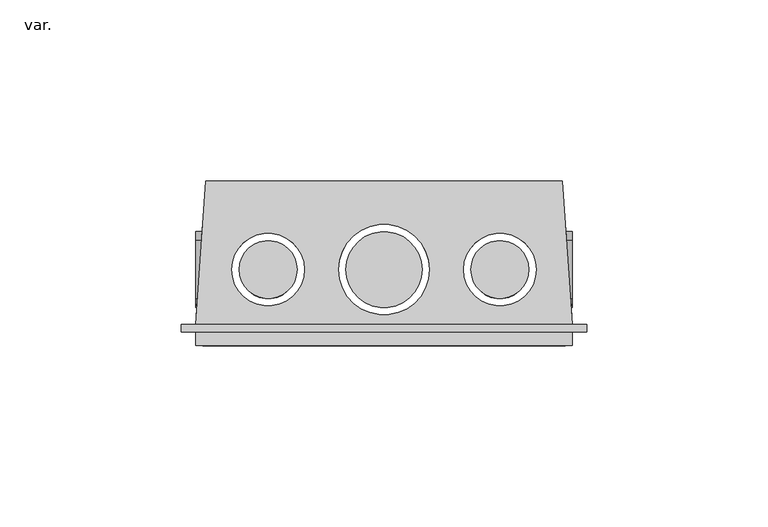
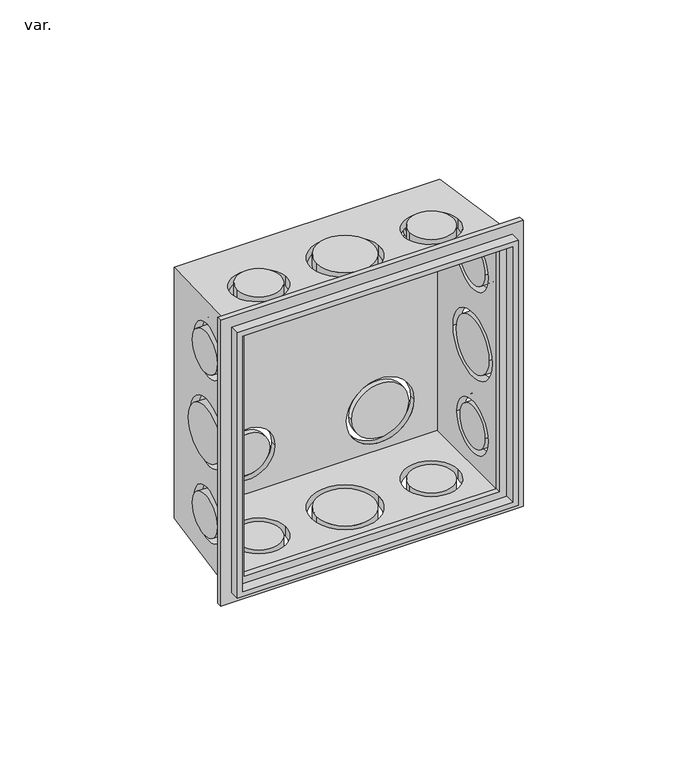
"""IFC4 building model written with IfcOpenShell, lengths in millimetres: pipe fitting geometry, AmancoWavin_ConexõesdoConduite_LinhaEletricaSoldRoscCaixa4x4 : var.."""

import ifcopenshell
import ifcopenshell.guid

model = None  # the IFC model being written
_history = None  # IfcOwnerHistory: only IFC2X3 demands one
_inside = {}  # id of a spatial element -> (the spatial element, [elements in it])
_under = {}  # id of a project, library or spatial element -> (it, [spatial elements below it])
_declared = {}  # id of a project -> (the project, [libraries it declares])
_typed = {}  # id of a type object -> (the type object, [elements of that type])
_made_of = {}  # id of a material, layer set ... -> (it, [elements and type objects made of it])


def new_model(schema):
    """Start an empty IFC model of exactly this schema.

    Asked for "IFC4X3", IfcOpenShell would pick the latest addendum, in which some entities
    have other attributes; the version numbers below select the first issue.
    IFC2X3 requires an IfcOwnerHistory on every rooted entity: one is made here for all.
    """
    global model, _history
    if schema == "IFC4X3":
        model = ifcopenshell.file(schema_version=(4, 3, 0, 0))
    else:
        model = ifcopenshell.file(schema=schema)
    _inside.clear()
    _under.clear()
    _declared.clear()
    _typed.clear()
    _made_of.clear()
    _history = None
    if model.schema == "IFC2X3":
        org = make("IfcOrganization", Name="unknown")
        user = make(
            "IfcPersonAndOrganization",
            ThePerson=make("IfcPerson", FamilyName="unknown"),
            TheOrganization=org,
        )
        app = make(
            "IfcApplication",
            ApplicationDeveloper=org,
            Version="unknown",
            ApplicationFullName="unknown",
            ApplicationIdentifier="unknown",
        )
        _history = make(
            "IfcOwnerHistory",
            OwningUser=user,
            OwningApplication=app,
            ChangeAction="ADDED",
            CreationDate=0,
        )
    return model


def make(cls, **values):
    """One entity of the class cls with the attributes given. An attribute that is None is left unset."""
    return model.create_entity(
        cls, **{name: value for name, value in values.items() if value is not None}
    )


def rooted(cls, **values):
    """An entity with a GlobalId (a new one), such as an element, a storey or a relation."""
    return make(cls, GlobalId=ifcopenshell.guid.new(), OwnerHistory=_history, **values)


def si_unit(unit_type, name, prefix=None):
    """IfcSIUnit, for example si_unit("LENGTHUNIT", "METRE", prefix="MILLI")."""
    return make("IfcSIUnit", UnitType=unit_type, Prefix=prefix, Name=name)


def assignment(units):
    """IfcUnitAssignment: the units of a project."""
    return None if units is None else make("IfcUnitAssignment", Units=units)


def point(xyz):
    """IfcCartesianPoint."""
    return None if xyz is None else make("IfcCartesianPoint", Coordinates=xyz)


def direction(xyz):
    """IfcDirection."""
    return None if xyz is None else make("IfcDirection", DirectionRatios=xyz)


def frame(location, z_axis=None, x_axis=None):
    """IfcAxis2Placement3D, a coordinate frame: its origin and axes. An axis left out is left unset."""
    return make(
        "IfcAxis2Placement3D",
        Location=point(location),
        Axis=direction(z_axis),
        RefDirection=direction(x_axis),
    )


def frame_2d(location, x_axis=None):
    """IfcAxis2Placement2D, a coordinate frame in the plane: its origin and x axis."""
    return make(
        "IfcAxis2Placement2D", Location=point(location), RefDirection=direction(x_axis)
    )


def origin():
    """The frame at (0, 0, 0) with its axes left unset."""
    return frame((0.0, 0.0, 0.0))


def place(relative_to, where):
    """IfcLocalPlacement: puts the frame where relative to a parent placement (None: the world)."""
    return make(
        "IfcLocalPlacement", PlacementRelTo=relative_to, RelativePlacement=where
    )


def context(
    kind, dimensions, precision=None, world=None, true_north=None, identifier=None
):
    """IfcGeometricRepresentationContext, for example the 3D "Model" context."""
    return make(
        "IfcGeometricRepresentationContext",
        ContextIdentifier=identifier,
        ContextType=kind,
        CoordinateSpaceDimension=dimensions,
        Precision=precision,
        WorldCoordinateSystem=world,
        TrueNorth=true_north,
    )


def project(units=None, contexts=None):
    """IfcProject with its units and contexts."""
    return rooted(
        "IfcProject",
        Name="project",
        RepresentationContexts=contexts,
        UnitsInContext=assignment(units),
    )


def spatial(cls, under=None, at=None, **own):
    """A site, building, storey or space (cls), placed at a placement, below another one or the project."""
    s = rooted(cls, ObjectPlacement=at, **own)
    if under is not None:
        _under.setdefault(under.id(), (under, []))[1].append(s)
    return s


def polyline(points):
    """IfcPolyline through the points."""
    return make("IfcPolyline", Points=[point(p) for p in points])


def circle_curve(where, radius):
    """IfcCircle in the frame where."""
    return make("IfcCircle", Position=where, Radius=radius)


def ellipse_curve(where, semi_axis1, semi_axis2):
    """IfcEllipse in the frame where."""
    return make(
        "IfcEllipse", Position=where, SemiAxis1=semi_axis1, SemiAxis2=semi_axis2
    )


def trimmed(basis, trim1, trim2, sense, master):
    """IfcTrimmedCurve: the piece of a basis curve between two trims."""
    return make(
        "IfcTrimmedCurve",
        BasisCurve=basis,
        Trim1=trim1,
        Trim2=trim2,
        SenseAgreement=sense,
        MasterRepresentation=master,
    )


def segment(curve, same_sense, transition):
    """IfcCompositeCurveSegment."""
    return make(
        "IfcCompositeCurveSegment",
        Transition=transition,
        SameSense=same_sense,
        ParentCurve=curve,
    )


def composite_curve(segments, self_intersect=None):
    """IfcCompositeCurve: segments joined end to end."""
    return make("IfcCompositeCurve", Segments=segments, SelfIntersect=self_intersect)


def outline(outer, holes=None, kind="AREA"):
    """IfcArbitraryClosedProfileDef: a profile drawn as a closed curve; with holes, ...WithVoids."""
    if holes is None:
        return make("IfcArbitraryClosedProfileDef", ProfileType=kind, OuterCurve=outer)
    return make(
        "IfcArbitraryProfileDefWithVoids",
        ProfileType=kind,
        OuterCurve=outer,
        InnerCurves=holes,
    )


def extrude(swept, where, along, depth):
    """IfcExtrudedAreaSolid: the profile swept, set in the frame where, extruded along a direction by depth."""
    return make(
        "IfcExtrudedAreaSolid",
        SweptArea=swept,
        Position=where,
        ExtrudedDirection=direction(along),
        Depth=depth,
    )


def shape(context_of_items, identifier, shape_type, items):
    """IfcShapeRepresentation: the items that make up one representation, for example the "Body"."""
    return make(
        "IfcShapeRepresentation",
        ContextOfItems=context_of_items,
        RepresentationIdentifier=identifier,
        RepresentationType=shape_type,
        Items=items,
    )


def source(mapping_origin, context_of_items, identifier, shape_type, items):
    """IfcRepresentationMap: a shape defined once, which mapped items show again and again."""
    return make(
        "IfcRepresentationMap",
        MappingOrigin=mapping_origin,
        MappedRepresentation=shape(context_of_items, identifier, shape_type, items),
    )


def transform(
    local_origin,
    x_axis=None,
    y_axis=None,
    z_axis=None,
    scale=None,
    scale2=None,
    scale3=None,
    uniform=True,
):
    """IfcCartesianTransformationOperator3D, or its non-uniform kind. x_axis, y_axis, z_axis: its Axis1, 2, 3."""
    if uniform:
        return make(
            "IfcCartesianTransformationOperator3D",
            Axis1=direction(x_axis),
            Axis2=direction(y_axis),
            LocalOrigin=point(local_origin),
            Scale=scale,
            Axis3=direction(z_axis),
        )
    return make(
        "IfcCartesianTransformationOperator3DnonUniform",
        Axis1=direction(x_axis),
        Axis2=direction(y_axis),
        LocalOrigin=point(local_origin),
        Scale=scale,
        Axis3=direction(z_axis),
        Scale2=scale2,
        Scale3=scale3,
    )


def mapped(mapping_source, mapping_target):
    """IfcMappedItem: shows the shape of a source again, moved by a transform."""
    return make(
        "IfcMappedItem", MappingSource=mapping_source, MappingTarget=mapping_target
    )


def made_of(thing, what):
    """Note that an element or type object is made of a material, layer set ...; save() writes the relation."""
    if what is not None:
        _made_of.setdefault(what.id(), (what, []))[1].append(thing)
    return thing


def element(
    cls,
    number,
    at=None,
    inside=None,
    cuts=None,
    type_object=None,
    material=None,
    context=None,
    identifier="Body",
    shape_type=None,
    held_by="IfcProductDefinitionShape",
    body=None,
    shapes=None,
    **own,
):
    """One element of the class cls, such as IfcWall. Its Tag is "e" and its number.

    at: its placement. inside: the storey or other place that contains it. cuts: it is an
    opening in that element (IfcRelVoidsElement). A single representation is given by context,
    identifier, shape_type and body (its items); several are given by shapes. held_by: the class
    of the entity that holds the representations. save() writes the other relations.
    """
    e = rooted(cls, Tag="e%d" % number, ObjectPlacement=at, **own)
    if body is not None:
        shapes = [shape(context, identifier, shape_type, body)]
    if shapes is not None:
        e.Representation = make(held_by, Representations=shapes)
    if inside is not None:
        _inside.setdefault(inside.id(), (inside, []))[1].append(e)
    if cuts is not None:
        rooted(
            "IfcRelVoidsElement", RelatingBuildingElement=cuts, RelatedOpeningElement=e
        )
    if type_object is not None:
        _typed.setdefault(type_object.id(), (type_object, []))[1].append(e)
    return made_of(e, material)


def aggregate(whole, parts):
    """IfcRelAggregates: a whole, such as a stair, and the parts it consists of."""
    return rooted("IfcRelAggregates", RelatingObject=whole, RelatedObjects=parts)


def save(model, path):
    """Write the relations noted so far, then the file.

    IfcRelAggregates (storeys below a building ...), IfcRelContainedInSpatialStructure (elements
    in a storey), IfcRelDefinesByType, IfcRelAssociatesMaterial and IfcRelDeclares: one each for
    every whole, place, type object, material and project.
    """
    for whole, parts in _under.values():
        aggregate(whole, parts)
    for where, things in _inside.values():
        rooted(
            "IfcRelContainedInSpatialStructure",
            RelatedElements=things,
            RelatingStructure=where,
        )
    for kind, things in _typed.values():
        rooted("IfcRelDefinesByType", RelatedObjects=things, RelatingType=kind)
    for what, things in _made_of.values():
        rooted("IfcRelAssociatesMaterial", RelatedObjects=things, RelatingMaterial=what)
    for by, libraries in _declared.values():
        rooted("IfcRelDeclares", RelatingContext=by, RelatedDefinitions=libraries)
    model.write(path)


def plane_surface(at):
    """IfcPlane: the flat surface through the origin of the frame at, square to its z axis."""
    return make("IfcPlane", Position=at)


def cylinder_surface(at, radius):
    """IfcCylindricalSurface: all points at the distance radius from the z axis of the frame at."""
    return make("IfcCylindricalSurface", Position=at, Radius=radius)


def revolved_surface(curve, axis_point, axis_direction):
    """IfcSurfaceOfRevolution: the curve turned about the line through axis_point along axis_direction."""
    return make(
        "IfcSurfaceOfRevolution",
        SweptCurve=make("IfcArbitraryOpenProfileDef", ProfileType="CURVE", Curve=curve),
        AxisPosition=make("IfcAxis1Placement", Location=point(axis_point), Axis=direction(axis_direction)),
    )


def advanced_brep(points, edges, surfaces, faces):
    """IfcAdvancedBrep: a solid bounded by faces that lie on surfaces and meet in shared edges.

    An edge is (start, end): straight between two places in points (the first is 0);
    or (start, end, curve); or (start, end, curve, False) where it runs against its curve.
    A face is (place in surfaces, loops), or (place, loops, False) where it looks against
    its surface's normal. A loop lists edges by number (the first is 1), with a minus sign
    where the edge is run from its end to its start. The first loop is the outer one.
    """
    corners = [point(p) for p in points]
    vertices = [make("IfcVertexPoint", VertexGeometry=c) for c in corners]
    made = []
    for start, end, *more in edges:
        made.append(
            make(
                "IfcEdgeCurve",
                EdgeStart=vertices[start],
                EdgeEnd=vertices[end],
                EdgeGeometry=more[0] if more else make("IfcPolyline", Points=[corners[start], corners[end]]),
                SameSense=more[1] if len(more) > 1 else True,
            )
        )
    hull = []
    for where, loops, *sense in faces:
        bounds = []
        for j, loop in enumerate(loops):
            ring = [make("IfcOrientedEdge", EdgeElement=made[abs(k) - 1], Orientation=k > 0) for k in loop]
            bounds.append(
                make(
                    "IfcFaceOuterBound" if j == 0 else "IfcFaceBound",
                    Bound=make("IfcEdgeLoop", EdgeList=ring),
                    Orientation=True,
                )
            )
        hull.append(make("IfcAdvancedFace", Bounds=bounds, FaceSurface=surfaces[where], SameSense=sense[0] if sense else True))
    return make("IfcAdvancedBrep", Outer=make("IfcClosedShell", CfsFaces=hull))


def var_c4bef79c(model_context):
    return source(origin(), model_context, "Body", "SolidModel", [
        extrude(outline(composite_curve([segment(trimmed(circle_curve(frame_2d((21.0, 32.0)), 8.0), [point((29.0, 32.0))], [point((13.0, 32.0))], False, "CARTESIAN"), True, "CONTINUOUS"), segment(trimmed(circle_curve(frame_2d((21.0, 32.0)), 8.0), [point((13.0, 32.0))], [point((29.0, 32.0))], False, "CARTESIAN"), True, "CONTINUOUS")], self_intersect=False)), frame((47.2239056, 0.0, 0.0), z_axis=(1.0, 0.0, 0.0), x_axis=(0.0, 1.0, 0.0)), (0.0, 0.0, 1.0), 4.7760944),
        extrude(outline(composite_curve([segment(trimmed(circle_curve(frame_2d((21.0, 0.0)), 10.5), [point((31.5, 0.0))], [point((10.5, 0.0))], False, "CARTESIAN"), True, "CONTINUOUS"), segment(trimmed(circle_curve(frame_2d((21.0, 0.0)), 10.5), [point((10.5, 0.0))], [point((31.5, 0.0))], False, "CARTESIAN"), True, "CONTINUOUS")], self_intersect=False)), frame((47.2239056, 0.0, 0.0), z_axis=(1.0, 0.0, 0.0), x_axis=(0.0, 1.0, 0.0)), (0.0, 0.0, 1.0), 4.7760944),
        extrude(outline(composite_curve([segment(trimmed(circle_curve(frame_2d((21.0, -32.0)), 8.0), [point((29.0, -32.0))], [point((13.0, -32.0))], False, "CARTESIAN"), True, "CONTINUOUS"), segment(trimmed(circle_curve(frame_2d((21.0, -32.0)), 8.0), [point((13.0, -32.0))], [point((29.0, -32.0))], False, "CARTESIAN"), True, "CONTINUOUS")], self_intersect=False)), frame((47.2239056, 0.0, 0.0), z_axis=(1.0, 0.0, 0.0), x_axis=(0.0, 1.0, 0.0)), (0.0, 0.0, 1.0), 4.7760944),
        extrude(outline(composite_curve([segment(trimmed(circle_curve(frame_2d((21.0, 32.0)), 8.0), [point((29.0, 32.0))], [point((13.0, 32.0))], False, "CARTESIAN"), True, "CONTINUOUS"), segment(trimmed(circle_curve(frame_2d((21.0, 32.0)), 8.0), [point((13.0, 32.0))], [point((29.0, 32.0))], False, "CARTESIAN"), True, "CONTINUOUS")], self_intersect=False)), frame((-52.0, 0.0, 0.0), z_axis=(1.0, 0.0, 0.0), x_axis=(0.0, 1.0, 0.0)), (0.0, 0.0, 1.0), 4.7760944),
        extrude(outline(composite_curve([segment(trimmed(circle_curve(frame_2d((21.0, 0.0)), 10.5), [point((31.5, 0.0))], [point((10.5, 0.0))], False, "CARTESIAN"), True, "CONTINUOUS"), segment(trimmed(circle_curve(frame_2d((21.0, 0.0)), 10.5), [point((10.5, 0.0))], [point((31.5, 0.0))], False, "CARTESIAN"), True, "CONTINUOUS")], self_intersect=False)), frame((-52.0, 0.0, 0.0), z_axis=(1.0, 0.0, 0.0), x_axis=(0.0, 1.0, 0.0)), (0.0, 0.0, 1.0), 4.7760944),
        extrude(outline(composite_curve([segment(trimmed(circle_curve(frame_2d((21.0, -32.0)), 8.0), [point((29.0, -32.0))], [point((13.0, -32.0))], False, "CARTESIAN"), True, "CONTINUOUS"), segment(trimmed(circle_curve(frame_2d((21.0, -32.0)), 8.0), [point((13.0, -32.0))], [point((29.0, -32.0))], False, "CARTESIAN"), True, "CONTINUOUS")], self_intersect=False)), frame((-52.0, 0.0, 0.0), z_axis=(1.0, 0.0, 0.0), x_axis=(0.0, 1.0, 0.0)), (0.0, 0.0, 1.0), 4.7760944),
        extrude(outline(polyline([(-52.0, -52.0), (-52.0, 52.0), (52.0, 52.0), (52.0, -52.0), (-52.0, -52.0)]), holes=[polyline([(-50.0, -50.0), (50.0, -50.0), (50.0, 50.0), (-50.0, 50.0), (-50.0, -50.0)])]), frame((0.0, 0.0, 0.0), z_axis=(0.0, 1.0, 0.0), x_axis=(0.0, 0.0, 1.0)), (0.0, 0.0, 1.0), 3.8),
        extrude(outline(polyline([(56.0, 56.0), (56.0, -56.0), (-56.0, -56.0), (-56.0, 56.0), (56.0, 56.0)]), holes=[polyline([(-47.2239056, -47.2239056), (47.2239056, -47.2239056), (47.2239056, 47.2239056), (-47.2239056, 47.2239056), (-47.2239056, -47.2239056)])]), frame((0.0, 3.8, 0.0), z_axis=(0.0, 1.0, 0.0), x_axis=(0.0, 0.0, 1.0)), (0.0, 0.0, 1.0), 2.0),
        advanced_brep(
        [(49.2239056, 45.5, 49.2239056), (49.2239056, 45.5, -49.2239056), (-49.2239056, 45.5, -49.2239056), (-49.2239056, 45.5, 49.2239056), (-35.5, 45.5, 32.0), (-10.5, 45.5, 32.0), (-33.0, 45.5, -32.0), (-13.0, 45.5, -32.0), (16.0, 45.5, 32.0), (36.0, 45.5, 32.0), (13.5, 45.5, -32.0), (38.5, 45.5, -32.0), (52.0, 5.8, 52.0), (-52.0, 5.8, 52.0), (-52.0, 5.8, -52.0), (52.0, 5.8, -52.0), (47.2239056, 5.8, 47.2239056), (47.2239056, 5.8, -47.2239056), (-47.2239056, 5.8, -47.2239056), (-47.2239056, 5.8, 47.2239056), (50.2378443, 31.0, 32.0), (51.6363806, 11.0, 32.0), (50.0630273, 33.5, 0.0), (51.8111976, 8.5, 0.0), (50.2378443, 31.0, -32.0), (51.6363806, 11.0, -32.0), (-12.5, 21.0, -50.9371125), (12.5, 21.0, -50.9371125), (-42.0, 21.0, -50.9371125), (-22.0, 21.0, -50.9371125), (22.0, 21.0, -50.9371125), (42.0, 21.0, -50.9371125), (-51.6363806, 11.0, 32.0), (-50.2378443, 31.0, 32.0), (-51.8111976, 8.5, 0.0), (-50.0630273, 33.5, 0.0), (-51.6363806, 11.0, -32.0), (-50.2378443, 31.0, -32.0), (12.5, 21.0, 50.9371125), (-12.5, 21.0, 50.9371125), (-22.0, 21.0, 50.9371125), (-42.0, 21.0, 50.9371125), (42.0, 21.0, 50.9371125), (22.0, 21.0, 50.9371125), (47.2239056, 43.5, 47.2239056), (-47.2239056, 43.5, 47.2239056), (-47.2239056, 43.5, -47.2239056), (47.2239056, 43.5, -47.2239056), (-10.5, 43.5, 32.0), (-35.5, 43.5, 32.0), (-13.0, 43.5, -32.0), (-33.0, 43.5, -32.0), (36.0, 43.5, 32.0), (16.0, 43.5, 32.0), (38.5, 43.5, -32.0), (13.5, 43.5, -32.0), (47.2239056, 11.0, 32.0), (47.2239056, 31.0, 32.0), (47.2239056, 8.5, 0.0), (47.2239056, 33.5, 0.0), (47.2239056, 11.0, -32.0), (47.2239056, 31.0, -32.0), (12.5, 21.0, -47.2239056), (-12.5, 21.0, -47.2239056), (-22.0, 21.0, -47.2239056), (-42.0, 21.0, -47.2239056), (42.0, 21.0, -47.2239056), (22.0, 21.0, -47.2239056), (-47.2239056, 31.0, 32.0), (-47.2239056, 11.0, 32.0), (-47.2239056, 33.5, 0.0), (-47.2239056, 8.5, 0.0), (-47.2239056, 31.0, -32.0), (-47.2239056, 11.0, -32.0), (-12.5, 21.0, 47.2239056), (12.5, 21.0, 47.2239056), (-42.0, 21.0, 47.2239056), (-22.0, 21.0, 47.2239056), (22.0, 21.0, 47.2239056), (42.0, 21.0, 47.2239056)],
        [
            (0, 1),
            (1, 2),
            (2, 3),
            (3, 0),
            (4, 5, circle_curve(frame((-23.0, 45.5, 32.0), z_axis=(0.0, -1.0, 0.0), x_axis=(-1.0, 0.0, 0.0)), 12.5)),
            (5, 4, circle_curve(frame((-23.0, 45.5, 32.0), z_axis=(0.0, -1.0, 0.0), x_axis=(-1.0, 0.0, 0.0)), 12.5)),
            (6, 7, circle_curve(frame((-23.0, 45.5, -32.0), z_axis=(0.0, -1.0, 0.0), x_axis=(-1.0, 0.0, 0.0)), 10.0)),
            (7, 6, circle_curve(frame((-23.0, 45.5, -32.0), z_axis=(0.0, -1.0, 0.0), x_axis=(-1.0, 0.0, 0.0)), 10.0)),
            (8, 9, circle_curve(frame((26.0, 45.5, 32.0), z_axis=(0.0, -1.0, 0.0), x_axis=(-1.0, 0.0, 0.0)), 10.0)),
            (9, 8, circle_curve(frame((26.0, 45.5, 32.0), z_axis=(0.0, -1.0, 0.0), x_axis=(-1.0, 0.0, 0.0)), 10.0)),
            (10, 11, circle_curve(frame((26.0, 45.5, -32.0), z_axis=(0.0, -1.0, 0.0), x_axis=(-1.0, 0.0, 0.0)), 12.5)),
            (11, 10, circle_curve(frame((26.0, 45.5, -32.0), z_axis=(0.0, -1.0, 0.0), x_axis=(-1.0, 0.0, 0.0)), 12.5)),
            (12, 13),
            (13, 14),
            (14, 15),
            (15, 12),
            (16, 17),
            (17, 18),
            (18, 19),
            (19, 16),
            (0, 12),
            (15, 1),
            (20, 21, ellipse_curve(frame((50.9371125, 21.0, 32.0), z_axis=(-0.9975640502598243, -0.06975647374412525, 0.0), x_axis=(-0.06975647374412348, 0.9975640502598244, 0.0)), 10.024419, 10.0)),
            (21, 20, ellipse_curve(frame((50.9371125, 21.0, 32.0), z_axis=(-0.9975640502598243, -0.06975647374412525, 0.0), x_axis=(-0.06975647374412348, 0.9975640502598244, 0.0)), 10.024419, 10.0)),
            (22, 23, ellipse_curve(frame((50.9371125, 21.0, 0.0), z_axis=(-0.9975640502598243, -0.06975647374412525, 0.0), x_axis=(-0.06975647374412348, 0.9975640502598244, 0.0)), 12.5305237, 12.5)),
            (23, 22, ellipse_curve(frame((50.9371125, 21.0, 0.0), z_axis=(-0.9975640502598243, -0.06975647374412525, 0.0), x_axis=(-0.06975647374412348, 0.9975640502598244, 0.0)), 12.5305237, 12.5)),
            (24, 25, ellipse_curve(frame((50.9371125, 21.0, -32.0), z_axis=(-0.9975640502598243, -0.06975647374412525, 0.0), x_axis=(-0.06975647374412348, 0.9975640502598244, 0.0)), 10.024419, 10.0)),
            (25, 24, ellipse_curve(frame((50.9371125, 21.0, -32.0), z_axis=(-0.9975640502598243, -0.06975647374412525, 0.0), x_axis=(-0.06975647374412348, 0.9975640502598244, 0.0)), 10.024419, 10.0)),
            (14, 2),
            (26, 27, ellipse_curve(frame((0.0, 21.0, -50.9371125), z_axis=(0.0, -0.06975647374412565, 0.9975640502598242), x_axis=(0.0, 0.9975640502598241, 0.0697564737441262)), 12.5305237, 12.5)),
            (27, 26, ellipse_curve(frame((0.0, 21.0, -50.9371125), z_axis=(0.0, -0.06975647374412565, 0.9975640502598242), x_axis=(0.0, 0.9975640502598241, 0.0697564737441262)), 12.5305237, 12.5)),
            (28, 29, ellipse_curve(frame((-32.0, 21.0, -50.9371125), z_axis=(0.0, -0.06975647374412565, 0.9975640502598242), x_axis=(0.0, 0.9975640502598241, 0.0697564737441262)), 10.024419, 10.0)),
            (29, 28, ellipse_curve(frame((-32.0, 21.0, -50.9371125), z_axis=(0.0, -0.06975647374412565, 0.9975640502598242), x_axis=(0.0, 0.9975640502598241, 0.0697564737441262)), 10.024419, 10.0)),
            (30, 31, ellipse_curve(frame((32.0, 21.0, -50.9371125), z_axis=(0.0, -0.06975647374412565, 0.9975640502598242), x_axis=(0.0, 0.9975640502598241, 0.0697564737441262)), 10.024419, 10.0)),
            (31, 30, ellipse_curve(frame((32.0, 21.0, -50.9371125), z_axis=(0.0, -0.06975647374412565, 0.9975640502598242), x_axis=(0.0, 0.9975640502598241, 0.0697564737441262)), 10.024419, 10.0)),
            (13, 3),
            (32, 33, ellipse_curve(frame((-50.9371125, 21.0, 32.0), z_axis=(0.9975640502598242, -0.06975647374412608, 0.0), x_axis=(-0.06975647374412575, -0.9975640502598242, 0.0)), 10.024419, 10.0)),
            (33, 32, ellipse_curve(frame((-50.9371125, 21.0, 32.0), z_axis=(0.9975640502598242, -0.06975647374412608, 0.0), x_axis=(-0.06975647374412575, -0.9975640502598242, 0.0)), 10.024419, 10.0)),
            (34, 35, ellipse_curve(frame((-50.9371125, 21.0, 0.0), z_axis=(0.9975640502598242, -0.06975647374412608, 0.0), x_axis=(-0.06975647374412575, -0.9975640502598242, 0.0)), 12.5305237, 12.5)),
            (35, 34, ellipse_curve(frame((-50.9371125, 21.0, 0.0), z_axis=(0.9975640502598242, -0.06975647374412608, 0.0), x_axis=(-0.06975647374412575, -0.9975640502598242, 0.0)), 12.5305237, 12.5)),
            (36, 37, ellipse_curve(frame((-50.9371125, 21.0, -32.0), z_axis=(0.9975640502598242, -0.06975647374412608, 0.0), x_axis=(-0.06975647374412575, -0.9975640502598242, 0.0)), 10.024419, 10.0)),
            (37, 36, ellipse_curve(frame((-50.9371125, 21.0, -32.0), z_axis=(0.9975640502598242, -0.06975647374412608, 0.0), x_axis=(-0.06975647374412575, -0.9975640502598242, 0.0)), 10.024419, 10.0)),
            (38, 39, ellipse_curve(frame((0.0, 21.0, 50.9371125), z_axis=(0.0, -0.06975647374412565, -0.9975640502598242), x_axis=(0.0, -0.9975640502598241, 0.0697564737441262)), 12.5305237, 12.5)),
            (39, 38, ellipse_curve(frame((0.0, 21.0, 50.9371125), z_axis=(0.0, -0.06975647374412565, -0.9975640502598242), x_axis=(0.0, -0.9975640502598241, 0.0697564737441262)), 12.5305237, 12.5)),
            (40, 41, ellipse_curve(frame((-32.0, 21.0, 50.9371125), z_axis=(0.0, -0.06975647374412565, -0.9975640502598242), x_axis=(0.0, -0.9975640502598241, 0.0697564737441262)), 10.024419, 10.0)),
            (41, 40, ellipse_curve(frame((-32.0, 21.0, 50.9371125), z_axis=(0.0, -0.06975647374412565, -0.9975640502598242), x_axis=(0.0, -0.9975640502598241, 0.0697564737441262)), 10.024419, 10.0)),
            (42, 43, ellipse_curve(frame((32.0, 21.0, 50.9371125), z_axis=(0.0, -0.06975647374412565, -0.9975640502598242), x_axis=(0.0, -0.9975640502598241, 0.0697564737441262)), 10.024419, 10.0)),
            (43, 42, ellipse_curve(frame((32.0, 21.0, 50.9371125), z_axis=(0.0, -0.06975647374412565, -0.9975640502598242), x_axis=(0.0, -0.9975640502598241, 0.0697564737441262)), 10.024419, 10.0)),
            (44, 45),
            (45, 46),
            (46, 47),
            (47, 44),
            (48, 49, circle_curve(frame((-23.0, 43.5, 32.0), z_axis=(0.0, 1.0, 0.0), x_axis=(-1.0, 0.0, 0.0)), 12.5)),
            (49, 48, circle_curve(frame((-23.0, 43.5, 32.0), z_axis=(0.0, 1.0, 0.0), x_axis=(-1.0, 0.0, 0.0)), 12.5)),
            (50, 51, circle_curve(frame((-23.0, 43.5, -32.0), z_axis=(0.0, 1.0, 0.0), x_axis=(-1.0, 0.0, 0.0)), 10.0)),
            (51, 50, circle_curve(frame((-23.0, 43.5, -32.0), z_axis=(0.0, 1.0, 0.0), x_axis=(-1.0, 0.0, 0.0)), 10.0)),
            (52, 53, circle_curve(frame((26.0, 43.5, 32.0), z_axis=(0.0, 1.0, 0.0), x_axis=(-1.0, 0.0, 0.0)), 10.0)),
            (53, 52, circle_curve(frame((26.0, 43.5, 32.0), z_axis=(0.0, 1.0, 0.0), x_axis=(-1.0, 0.0, 0.0)), 10.0)),
            (54, 55, circle_curve(frame((26.0, 43.5, -32.0), z_axis=(0.0, 1.0, 0.0), x_axis=(-1.0, 0.0, 0.0)), 12.5)),
            (55, 54, circle_curve(frame((26.0, 43.5, -32.0), z_axis=(0.0, 1.0, 0.0), x_axis=(-1.0, 0.0, 0.0)), 12.5)),
            (47, 17),
            (16, 44),
            (56, 57, circle_curve(frame((47.2239056, 21.0, 32.0), z_axis=(1.0, 0.0, 0.0), x_axis=(0.0, -1.0, 0.0)), 10.0)),
            (57, 56, circle_curve(frame((47.2239056, 21.0, 32.0), z_axis=(1.0, 0.0, 0.0), x_axis=(0.0, -1.0, 0.0)), 10.0)),
            (58, 59, circle_curve(frame((47.2239056, 21.0, 0.0), z_axis=(1.0, 0.0, 0.0), x_axis=(0.0, -1.0, 0.0)), 12.5)),
            (59, 58, circle_curve(frame((47.2239056, 21.0, 0.0), z_axis=(1.0, 0.0, 0.0), x_axis=(0.0, -1.0, 0.0)), 12.5)),
            (60, 61, circle_curve(frame((47.2239056, 21.0, -32.0), z_axis=(1.0, 0.0, 0.0), x_axis=(0.0, -1.0, 0.0)), 10.0)),
            (61, 60, circle_curve(frame((47.2239056, 21.0, -32.0), z_axis=(1.0, 0.0, 0.0), x_axis=(0.0, -1.0, 0.0)), 10.0)),
            (46, 18),
            (62, 63, circle_curve(frame((0.0, 21.0, -47.2239056), z_axis=(0.0, 0.0, -1.0), x_axis=(1.0, 0.0, 0.0)), 12.5)),
            (63, 62, circle_curve(frame((0.0, 21.0, -47.2239056), z_axis=(0.0, 0.0, -1.0), x_axis=(1.0, 0.0, 0.0)), 12.5)),
            (64, 65, circle_curve(frame((-32.0, 21.0, -47.2239056), z_axis=(0.0, 0.0, -1.0), x_axis=(1.0, 0.0, 0.0)), 10.0)),
            (65, 64, circle_curve(frame((-32.0, 21.0, -47.2239056), z_axis=(0.0, 0.0, -1.0), x_axis=(1.0, 0.0, 0.0)), 10.0)),
            (66, 67, circle_curve(frame((32.0, 21.0, -47.2239056), z_axis=(0.0, 0.0, -1.0), x_axis=(1.0, 0.0, 0.0)), 10.0)),
            (67, 66, circle_curve(frame((32.0, 21.0, -47.2239056), z_axis=(0.0, 0.0, -1.0), x_axis=(1.0, 0.0, 0.0)), 10.0)),
            (45, 19),
            (68, 69, circle_curve(frame((-47.2239056, 21.0, 32.0), z_axis=(-1.0, 0.0, 0.0), x_axis=(0.0, -1.0, 0.0)), 10.0)),
            (69, 68, circle_curve(frame((-47.2239056, 21.0, 32.0), z_axis=(-1.0, 0.0, 0.0), x_axis=(0.0, -1.0, 0.0)), 10.0)),
            (70, 71, circle_curve(frame((-47.2239056, 21.0, 0.0), z_axis=(-1.0, 0.0, 0.0), x_axis=(0.0, -1.0, 0.0)), 12.5)),
            (71, 70, circle_curve(frame((-47.2239056, 21.0, 0.0), z_axis=(-1.0, 0.0, 0.0), x_axis=(0.0, -1.0, 0.0)), 12.5)),
            (72, 73, circle_curve(frame((-47.2239056, 21.0, -32.0), z_axis=(-1.0, 0.0, 0.0), x_axis=(0.0, -1.0, 0.0)), 10.0)),
            (73, 72, circle_curve(frame((-47.2239056, 21.0, -32.0), z_axis=(-1.0, 0.0, 0.0), x_axis=(0.0, -1.0, 0.0)), 10.0)),
            (74, 75, circle_curve(frame((0.0, 21.0, 47.2239056), z_axis=(0.0, 0.0, 1.0), x_axis=(1.0, 0.0, 0.0)), 12.5)),
            (75, 74, circle_curve(frame((0.0, 21.0, 47.2239056), z_axis=(0.0, 0.0, 1.0), x_axis=(1.0, 0.0, 0.0)), 12.5)),
            (76, 77, circle_curve(frame((-32.0, 21.0, 47.2239056), z_axis=(0.0, 0.0, 1.0), x_axis=(1.0, 0.0, 0.0)), 10.0)),
            (77, 76, circle_curve(frame((-32.0, 21.0, 47.2239056), z_axis=(0.0, 0.0, 1.0), x_axis=(1.0, 0.0, 0.0)), 10.0)),
            (78, 79, circle_curve(frame((32.0, 21.0, 47.2239056), z_axis=(0.0, 0.0, 1.0), x_axis=(1.0, 0.0, 0.0)), 10.0)),
            (79, 78, circle_curve(frame((32.0, 21.0, 47.2239056), z_axis=(0.0, 0.0, 1.0), x_axis=(1.0, 0.0, 0.0)), 10.0)),
            (4, 49),
            (48, 5),
            (6, 51),
            (50, 7),
            (8, 53),
            (52, 9),
            (10, 55),
            (54, 11),
            (26, 63),
            (62, 27),
            (38, 75),
            (74, 39),
            (28, 65),
            (64, 29),
            (40, 77),
            (76, 41),
            (30, 67),
            (66, 31),
            (42, 79),
            (78, 43),
            (20, 57),
            (56, 21),
            (32, 69),
            (68, 33),
            (22, 59),
            (58, 23),
            (34, 71),
            (70, 35),
            (24, 61),
            (60, 25),
            (36, 73),
            (72, 37),
        ],
        [
            plane_surface(frame((0.0, 45.5, 0.0), z_axis=(0.0, 1.0, 0.0), x_axis=(0.0, 0.0, -1.0))),
            plane_surface(frame((0.0, 5.8, 0.0), z_axis=(0.0, -1.0, 0.0), x_axis=(0.0, 0.0, -1.0))),
            plane_surface(frame((52.0, 5.8, 0.0), z_axis=(0.9975640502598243, 0.06975647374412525, 0.0), x_axis=(0.0, 0.0, -1.0))),
            plane_surface(frame((0.0, 5.8, -52.0), z_axis=(0.0, 0.06975647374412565, -0.9975640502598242), x_axis=(-1.0, 0.0, 0.0))),
            plane_surface(frame((-52.0, 5.8, 0.0), z_axis=(-0.9975640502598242, 0.06975647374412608, 0.0), x_axis=(0.0, 0.0, 1.0))),
            plane_surface(frame((0.0, 5.8, 52.0), z_axis=(0.0, 0.06975647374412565, 0.9975640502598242), x_axis=(1.0, 0.0, 0.0))),
            plane_surface(frame((47.2239056, 43.5, 47.2239056), z_axis=(0.0, -1.0, 0.0), x_axis=(0.0, 0.0, -1.0))),
            plane_surface(frame((47.2239056, 43.5, 47.2239056), z_axis=(-1.0, 0.0, 0.0), x_axis=(0.0, -1.0, 0.0))),
            plane_surface(frame((47.2239056, 43.5, -47.2239056), z_axis=(0.0, 0.0, 1.0), x_axis=(0.0, -1.0, 0.0))),
            plane_surface(frame((-47.2239056, 43.5, -47.2239056), z_axis=(1.0, 0.0, 0.0), x_axis=(0.0, -1.0, 0.0))),
            plane_surface(frame((-47.2239056, 43.5, 47.2239056), z_axis=(0.0, 0.0, -1.0), x_axis=(0.0, -1.0, 0.0))),
            revolved_surface(polyline([(-35.5, 45.5, 32.0), (-35.5, 43.5, 32.0)]), (-23.0, 43.5, 32.0), (0.0, 1.0, 0.0)),
            revolved_surface(polyline([(-33.0, 45.5, -32.0), (-33.0, 43.5, -32.0)]), (-23.0, 0.0, -32.0), (0.0, 1.0, 0.0)),
            revolved_surface(polyline([(16.0, 45.5, 32.0), (16.0, 43.5, 32.0)]), (26.0, 0.0, 32.0), (0.0, 1.0, 0.0)),
            revolved_surface(polyline([(13.5, 45.5, -32.0), (13.5, 43.5, -32.0)]), (26.0, 0.0, -32.0), (0.0, 1.0, 0.0)),
            revolved_surface(polyline([(12.5, 21.0, -47.2239056), (12.5, 21.0, -51.8111976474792)]), (0.0, 21.0, -52.0), (0.0, 0.0, 1.0)),
            revolved_surface(polyline([(12.5, 21.0, 51.811197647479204), (12.5, 21.0, 47.223905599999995)]), (0.0, 21.0, -52.0), (0.0, 0.0, 1.0)),
            revolved_surface(polyline([(-22.0, 21.0, -47.2239056), (-22.0, 21.0, -51.636380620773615)]), (-32.0, 21.0, 0.0), (0.0, 0.0, 1.0)),
            revolved_surface(polyline([(-22.0, 21.0, 51.636380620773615), (-22.0, 21.0, 47.2239056)]), (-32.0, 21.0, 0.0), (0.0, 0.0, 1.0)),
            revolved_surface(polyline([(42.0, 21.0, -47.2239056), (42.0, 21.0, -51.636380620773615)]), (32.0, 21.0, 0.0), (0.0, 0.0, 1.0)),
            revolved_surface(polyline([(42.0, 21.0, 51.636380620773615), (42.0, 21.0, 47.2239056)]), (32.0, 21.0, 0.0), (0.0, 0.0, 1.0)),
            revolved_surface(polyline([(47.2239056, 11.0, 32.0), (51.63638062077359, 11.0, 32.0)]), (64.076345, 21.0, 32.0), (-1.0, 0.0, 0.0)),
            revolved_surface(polyline([(-51.63638062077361, 11.0, 32.0), (-47.223905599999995, 11.0, 32.0)]), (64.076345, 21.0, 32.0), (-1.0, 0.0, 0.0)),
            revolved_surface(polyline([(47.2239056, 8.5, 0.0), (51.81119764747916, 8.5, 0.0)]), (0.0, 21.0, 0.0), (-1.0, 0.0, 0.0)),
            revolved_surface(polyline([(-51.81119764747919, 8.5, 0.0), (-47.2239056, 8.5, 0.0)]), (0.0, 21.0, 0.0), (-1.0, 0.0, 0.0)),
            revolved_surface(polyline([(47.2239056, 11.0, -32.0), (51.63638062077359, 11.0, -32.0)]), (0.0, 21.0, -32.0), (-1.0, 0.0, 0.0)),
            revolved_surface(polyline([(-51.636380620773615, 11.0, -32.0), (-47.2239056, 11.0, -32.0)]), (0.0, 21.0, -32.0), (-1.0, 0.0, 0.0)),
        ],
        [
            (0, [[1, 2, 3, 4], [5, 6], [7, 8], [9, 10], [11, 12]]),
            (1, [[13, 14, 15, 16], [17, 18, 19, 20]]),
            (2, [[-1, 21, -16, 22], [23, 24], [25, 26], [27, 28]]),
            (3, [[-2, -22, -15, 29], [30, 31], [32, 33], [34, 35]]),
            (4, [[-3, -29, -14, 36], [37, 38], [39, 40], [41, 42]]),
            (5, [[-4, -36, -13, -21], [43, 44], [45, 46], [47, 48]]),
            (6, [[49, 50, 51, 52], [53, 54], [55, 56], [57, 58], [59, 60]]),
            (7, [[-52, 61, -17, 62], [63, 64], [65, 66], [67, 68]]),
            (8, [[-51, 69, -18, -61], [70, 71], [72, 73], [74, 75]]),
            (9, [[-50, 76, -19, -69], [77, 78], [79, 80], [81, 82]]),
            (10, [[-49, -62, -20, -76], [83, 84], [85, 86], [87, 88]]),
            (11, [[89, -53, 90, -5]]),
            (11, [[-89, -6, -90, -54]]),
            (12, [[91, -55, 92, -7]]),
            (12, [[-91, -8, -92, -56]]),
            (13, [[93, -57, 94, -9]]),
            (13, [[-93, -10, -94, -58]]),
            (14, [[95, -59, 96, -11]]),
            (14, [[-95, -12, -96, -60]]),
            (15, [[-30, 97, -70, 98]]),
            (16, [[-43, 99, -83, 100]]),
            (15, [[-31, -98, -71, -97]]),
            (16, [[-44, -100, -84, -99]]),
            (17, [[-32, 101, -72, 102]]),
            (18, [[-45, 103, -85, 104]]),
            (17, [[-33, -102, -73, -101]]),
            (18, [[-46, -104, -86, -103]]),
            (19, [[-34, 105, -74, 106]]),
            (20, [[-47, 107, -87, 108]]),
            (19, [[-35, -106, -75, -105]]),
            (20, [[-48, -108, -88, -107]]),
            (21, [[-23, 109, -63, 110]]),
            (22, [[-37, 111, -77, 112]]),
            (21, [[-24, -110, -64, -109]]),
            (22, [[-38, -112, -78, -111]]),
            (23, [[-25, 113, -65, 114]]),
            (24, [[-39, 115, -79, 116]]),
            (23, [[-26, -114, -66, -113]]),
            (24, [[-40, -116, -80, -115]]),
            (25, [[-27, 117, -67, 118]]),
            (26, [[-41, 119, -81, 120]]),
            (25, [[-28, -118, -68, -117]]),
            (26, [[-42, -120, -82, -119]]),
        ],
    ),
        advanced_brep(
        [(-33.5, 45.5, 32.0), (-12.5, 45.5, 32.0), (-12.5, 43.5, 32.0), (-33.5, 43.5, 32.0)],
        [
            (0, 1, circle_curve(frame((-23.0, 45.5, 32.0), z_axis=(0.0, 1.0, 0.0), x_axis=(-1.0, 0.0, 0.0)), 10.5)),
            (1, 0, circle_curve(frame((-23.0, 45.5, 32.0), z_axis=(0.0, 1.0, 0.0), x_axis=(-1.0, 0.0, 0.0)), 10.5)),
            (2, 3, circle_curve(frame((-23.0, 43.5, 32.0), z_axis=(0.0, -1.0, 0.0), x_axis=(-1.0, 0.0, 0.0)), 10.5)),
            (3, 2, circle_curve(frame((-23.0, 43.5, 32.0), z_axis=(0.0, -1.0, 0.0), x_axis=(-1.0, 0.0, 0.0)), 10.5)),
            (0, 3),
            (2, 1),
        ],
        [
            plane_surface(frame((0.0, 45.5, 0.0), z_axis=(0.0, 1.0, 0.0), x_axis=(0.0, 0.0, -1.0))),
            plane_surface(frame((47.2239056, 43.5, 47.2239056), z_axis=(0.0, -1.0, 0.0), x_axis=(0.0, 0.0, -1.0))),
            cylinder_surface(frame((-23.0, 0.0, 32.0), z_axis=(0.0, -1.0, 0.0), x_axis=(-1.0, 0.0, 0.0)), 10.5),
        ],
        [
            (0, [[1, 2]]),
            (1, [[3, 4]]),
            (2, [[5, -3, 6, -1]]),
            (2, [[-5, -2, -6, -4]]),
        ],
    ),
        advanced_brep(
        [(18.0, 45.5, 32.0), (34.0, 45.5, 32.0), (34.0, 43.5, 32.0), (18.0, 43.5, 32.0)],
        [
            (0, 1, circle_curve(frame((26.0, 45.5, 32.0), z_axis=(0.0, 1.0, 0.0), x_axis=(-1.0, 0.0, 0.0)), 8.0)),
            (1, 0, circle_curve(frame((26.0, 45.5, 32.0), z_axis=(0.0, 1.0, 0.0), x_axis=(-1.0, 0.0, 0.0)), 8.0)),
            (2, 3, circle_curve(frame((26.0, 43.5, 32.0), z_axis=(0.0, -1.0, 0.0), x_axis=(-1.0, 0.0, 0.0)), 8.0)),
            (3, 2, circle_curve(frame((26.0, 43.5, 32.0), z_axis=(0.0, -1.0, 0.0), x_axis=(-1.0, 0.0, 0.0)), 8.0)),
            (0, 3),
            (2, 1),
        ],
        [
            plane_surface(frame((0.0, 45.5, 0.0), z_axis=(0.0, 1.0, 0.0), x_axis=(0.0, 0.0, -1.0))),
            plane_surface(frame((47.2239056, 43.5, 47.2239056), z_axis=(0.0, -1.0, 0.0), x_axis=(0.0, 0.0, -1.0))),
            cylinder_surface(frame((26.0, 0.0, 32.0), z_axis=(0.0, -1.0, 0.0), x_axis=(-1.0, 0.0, 0.0)), 8.0),
        ],
        [
            (0, [[1, 2]]),
            (1, [[3, 4]]),
            (2, [[5, -3, 6, -1]]),
            (2, [[-5, -2, -6, -4]]),
        ],
    ),
        advanced_brep(
        [(-31.0, 45.5, -32.0), (-15.0, 45.5, -32.0), (-15.0, 43.5, -32.0), (-31.0, 43.5, -32.0)],
        [
            (0, 1, circle_curve(frame((-23.0, 45.5, -32.0), z_axis=(0.0, 1.0, 0.0), x_axis=(-1.0, 0.0, 0.0)), 8.0)),
            (1, 0, circle_curve(frame((-23.0, 45.5, -32.0), z_axis=(0.0, 1.0, 0.0), x_axis=(-1.0, 0.0, 0.0)), 8.0)),
            (2, 3, circle_curve(frame((-23.0, 43.5, -32.0), z_axis=(0.0, -1.0, 0.0), x_axis=(-1.0, 0.0, 0.0)), 8.0)),
            (3, 2, circle_curve(frame((-23.0, 43.5, -32.0), z_axis=(0.0, -1.0, 0.0), x_axis=(-1.0, 0.0, 0.0)), 8.0)),
            (0, 3),
            (2, 1),
        ],
        [
            plane_surface(frame((0.0, 45.5, 0.0), z_axis=(0.0, 1.0, 0.0), x_axis=(0.0, 0.0, -1.0))),
            plane_surface(frame((47.2239056, 43.5, 47.2239056), z_axis=(0.0, -1.0, 0.0), x_axis=(0.0, 0.0, -1.0))),
            cylinder_surface(frame((-23.0, 0.0, -32.0), z_axis=(0.0, -1.0, 0.0), x_axis=(-1.0, 0.0, 0.0)), 8.0),
        ],
        [
            (0, [[1, 2]]),
            (1, [[3, 4]]),
            (2, [[5, -3, 6, -1]]),
            (2, [[-5, -2, -6, -4]]),
        ],
    ),
        advanced_brep(
        [(15.5, 45.5, -32.0), (36.5, 45.5, -32.0), (36.5, 43.5, -32.0), (15.5, 43.5, -32.0)],
        [
            (0, 1, circle_curve(frame((26.0, 45.5, -32.0), z_axis=(0.0, 1.0, 0.0), x_axis=(-1.0, 0.0, 0.0)), 10.5)),
            (1, 0, circle_curve(frame((26.0, 45.5, -32.0), z_axis=(0.0, 1.0, 0.0), x_axis=(-1.0, 0.0, 0.0)), 10.5)),
            (2, 3, circle_curve(frame((26.0, 43.5, -32.0), z_axis=(0.0, -1.0, 0.0), x_axis=(-1.0, 0.0, 0.0)), 10.5)),
            (3, 2, circle_curve(frame((26.0, 43.5, -32.0), z_axis=(0.0, -1.0, 0.0), x_axis=(-1.0, 0.0, 0.0)), 10.5)),
            (0, 3),
            (2, 1),
        ],
        [
            plane_surface(frame((0.0, 45.5, 0.0), z_axis=(0.0, 1.0, 0.0), x_axis=(0.0, 0.0, -1.0))),
            plane_surface(frame((47.2239056, 43.5, 47.2239056), z_axis=(0.0, -1.0, 0.0), x_axis=(0.0, 0.0, -1.0))),
            cylinder_surface(frame((26.0, 0.0, -32.0), z_axis=(0.0, -1.0, 0.0), x_axis=(-1.0, 0.0, 0.0)), 10.5),
        ],
        [
            (0, [[1, 2]]),
            (1, [[3, 4]]),
            (2, [[5, -3, 6, -1]]),
            (2, [[-5, -2, -6, -4]]),
        ],
    ),
        advanced_brep(
        [(-40.0, 21.0, -47.2239056), (-24.0, 21.0, -47.2239056), (-40.0, 21.0, -52.0), (-24.0, 21.0, -52.0)],
        [
            (0, 1, circle_curve(frame((-32.0, 21.0, -47.2239056), z_axis=(0.0, 0.0, 1.0), x_axis=(1.0, 0.0, 0.0)), 8.0)),
            (1, 0, circle_curve(frame((-32.0, 21.0, -47.2239056), z_axis=(0.0, 0.0, 1.0), x_axis=(1.0, 0.0, 0.0)), 8.0)),
            (2, 3, circle_curve(frame((-32.0, 21.0, -52.0), z_axis=(0.0, 0.0, -1.0), x_axis=(1.0, 0.0, 0.0)), 8.0)),
            (3, 2, circle_curve(frame((-32.0, 21.0, -52.0), z_axis=(0.0, 0.0, -1.0), x_axis=(1.0, 0.0, 0.0)), 8.0)),
            (3, 1),
            (0, 2),
        ],
        [
            plane_surface(frame((47.2239056, 43.5, -47.2239056), z_axis=(0.0, 0.0, 1.0), x_axis=(0.0, -1.0, 0.0))),
            plane_surface(frame((-24.0, 21.0, -52.0), z_axis=(0.0, 0.0, -1.0), x_axis=(0.0, -1.0, 0.0))),
            cylinder_surface(frame((-32.0, 21.0, -52.0), z_axis=(0.0, 0.0, 1.0), x_axis=(1.0, 0.0, 0.0)), 8.0),
        ],
        [
            (0, [[1, 2]]),
            (1, [[3, 4]]),
            (2, [[-4, 5, -1, 6]]),
            (2, [[-3, -6, -2, -5]]),
        ],
    ),
        advanced_brep(
        [(-10.5, 21.0, -47.2239056), (10.5, 21.0, -47.2239056), (-10.5, 21.0, -52.0), (10.5, 21.0, -52.0)],
        [
            (0, 1, circle_curve(frame((0.0, 21.0, -47.2239056), z_axis=(0.0, 0.0, 1.0), x_axis=(1.0, 0.0, 0.0)), 10.5)),
            (1, 0, circle_curve(frame((0.0, 21.0, -47.2239056), z_axis=(0.0, 0.0, 1.0), x_axis=(1.0, 0.0, 0.0)), 10.5)),
            (2, 3, circle_curve(frame((0.0, 21.0, -52.0), z_axis=(0.0, 0.0, -1.0), x_axis=(1.0, 0.0, 0.0)), 10.5)),
            (3, 2, circle_curve(frame((0.0, 21.0, -52.0), z_axis=(0.0, 0.0, -1.0), x_axis=(1.0, 0.0, 0.0)), 10.5)),
            (3, 1),
            (0, 2),
        ],
        [
            plane_surface(frame((47.2239056, 43.5, -47.2239056), z_axis=(0.0, 0.0, 1.0), x_axis=(0.0, -1.0, 0.0))),
            plane_surface(frame((-24.0, 21.0, -52.0), z_axis=(0.0, 0.0, -1.0), x_axis=(0.0, -1.0, 0.0))),
            cylinder_surface(frame((0.0, 21.0, 0.0), z_axis=(0.0, 0.0, 1.0), x_axis=(1.0, 0.0, 0.0)), 10.5),
        ],
        [
            (0, [[1, 2]]),
            (1, [[3, 4]]),
            (2, [[-4, 5, -1, 6]]),
            (2, [[-3, -6, -2, -5]]),
        ],
    ),
        advanced_brep(
        [(24.0, 21.0, -47.2239056), (40.0, 21.0, -47.2239056), (24.0, 21.0, -52.0), (40.0, 21.0, -52.0)],
        [
            (0, 1, circle_curve(frame((32.0, 21.0, -47.2239056), z_axis=(0.0, 0.0, 1.0), x_axis=(1.0, 0.0, 0.0)), 8.0)),
            (1, 0, circle_curve(frame((32.0, 21.0, -47.2239056), z_axis=(0.0, 0.0, 1.0), x_axis=(1.0, 0.0, 0.0)), 8.0)),
            (2, 3, circle_curve(frame((32.0, 21.0, -52.0), z_axis=(0.0, 0.0, -1.0), x_axis=(1.0, 0.0, 0.0)), 8.0)),
            (3, 2, circle_curve(frame((32.0, 21.0, -52.0), z_axis=(0.0, 0.0, -1.0), x_axis=(1.0, 0.0, 0.0)), 8.0)),
            (3, 1),
            (0, 2),
        ],
        [
            plane_surface(frame((47.2239056, 43.5, -47.2239056), z_axis=(0.0, 0.0, 1.0), x_axis=(0.0, -1.0, 0.0))),
            plane_surface(frame((-24.0, 21.0, -52.0), z_axis=(0.0, 0.0, -1.0), x_axis=(0.0, -1.0, 0.0))),
            cylinder_surface(frame((32.0, 21.0, 0.0), z_axis=(0.0, 0.0, 1.0), x_axis=(1.0, 0.0, 0.0)), 8.0),
        ],
        [
            (0, [[1, 2]]),
            (1, [[3, 4]]),
            (2, [[-4, 5, -1, 6]]),
            (2, [[-3, -6, -2, -5]]),
        ],
    ),
        advanced_brep(
        [(-24.0, 21.0, 47.2239056), (-40.0, 21.0, 47.2239056), (-40.0, 21.0, 52.0), (-24.0, 21.0, 52.0)],
        [
            (0, 1, circle_curve(frame((-32.0, 21.0, 47.2239056), z_axis=(0.0, 0.0, -1.0), x_axis=(1.0, 0.0, 0.0)), 8.0)),
            (1, 0, circle_curve(frame((-32.0, 21.0, 47.2239056), z_axis=(0.0, 0.0, -1.0), x_axis=(1.0, 0.0, 0.0)), 8.0)),
            (2, 3, circle_curve(frame((-32.0, 21.0, 52.0), z_axis=(0.0, 0.0, 1.0), x_axis=(1.0, 0.0, 0.0)), 8.0)),
            (3, 2, circle_curve(frame((-32.0, 21.0, 52.0), z_axis=(0.0, 0.0, 1.0), x_axis=(1.0, 0.0, 0.0)), 8.0)),
            (2, 1),
            (0, 3),
        ],
        [
            plane_surface(frame((-47.2239056, 43.5, 47.2239056), z_axis=(0.0, 0.0, -1.0), x_axis=(0.0, -1.0, 0.0))),
            plane_surface(frame((-24.0, 21.0, 52.0), z_axis=(0.0, 0.0, 1.0), x_axis=(0.0, 1.0, 0.0))),
            cylinder_surface(frame((-32.0, 21.0, -52.0), z_axis=(0.0, 0.0, 1.0), x_axis=(1.0, 0.0, 0.0)), 8.0),
        ],
        [
            (0, [[1, 2]]),
            (1, [[3, 4]]),
            (2, [[-3, 5, -1, 6]]),
            (2, [[-4, -6, -2, -5]]),
        ],
    ),
        advanced_brep(
        [(10.5, 21.0, 47.2239056), (-10.5, 21.0, 47.2239056), (-10.5, 21.0, 52.0), (10.5, 21.0, 52.0)],
        [
            (0, 1, circle_curve(frame((0.0, 21.0, 47.2239056), z_axis=(0.0, 0.0, -1.0), x_axis=(1.0, 0.0, 0.0)), 10.5)),
            (1, 0, circle_curve(frame((0.0, 21.0, 47.2239056), z_axis=(0.0, 0.0, -1.0), x_axis=(1.0, 0.0, 0.0)), 10.5)),
            (2, 3, circle_curve(frame((0.0, 21.0, 52.0), z_axis=(0.0, 0.0, 1.0), x_axis=(1.0, 0.0, 0.0)), 10.5)),
            (3, 2, circle_curve(frame((0.0, 21.0, 52.0), z_axis=(0.0, 0.0, 1.0), x_axis=(1.0, 0.0, 0.0)), 10.5)),
            (2, 1),
            (0, 3),
        ],
        [
            plane_surface(frame((-47.2239056, 43.5, 47.2239056), z_axis=(0.0, 0.0, -1.0), x_axis=(0.0, -1.0, 0.0))),
            plane_surface(frame((-24.0, 21.0, 52.0), z_axis=(0.0, 0.0, 1.0), x_axis=(0.0, 1.0, 0.0))),
            cylinder_surface(frame((0.0, 21.0, 0.0), z_axis=(0.0, 0.0, 1.0), x_axis=(1.0, 0.0, 0.0)), 10.5),
        ],
        [
            (0, [[1, 2]]),
            (1, [[3, 4]]),
            (2, [[-3, 5, -1, 6]]),
            (2, [[-4, -6, -2, -5]]),
        ],
    ),
        advanced_brep(
        [(40.0, 21.0, 47.2239056), (24.0, 21.0, 47.2239056), (24.0, 21.0, 52.0), (40.0, 21.0, 52.0)],
        [
            (0, 1, circle_curve(frame((32.0, 21.0, 47.2239056), z_axis=(0.0, 0.0, -1.0), x_axis=(1.0, 0.0, 0.0)), 8.0)),
            (1, 0, circle_curve(frame((32.0, 21.0, 47.2239056), z_axis=(0.0, 0.0, -1.0), x_axis=(1.0, 0.0, 0.0)), 8.0)),
            (2, 3, circle_curve(frame((32.0, 21.0, 52.0), z_axis=(0.0, 0.0, 1.0), x_axis=(1.0, 0.0, 0.0)), 8.0)),
            (3, 2, circle_curve(frame((32.0, 21.0, 52.0), z_axis=(0.0, 0.0, 1.0), x_axis=(1.0, 0.0, 0.0)), 8.0)),
            (2, 1),
            (0, 3),
        ],
        [
            plane_surface(frame((-47.2239056, 43.5, 47.2239056), z_axis=(0.0, 0.0, -1.0), x_axis=(0.0, -1.0, 0.0))),
            plane_surface(frame((-24.0, 21.0, 52.0), z_axis=(0.0, 0.0, 1.0), x_axis=(0.0, 1.0, 0.0))),
            cylinder_surface(frame((32.0, 21.0, 0.0), z_axis=(0.0, 0.0, 1.0), x_axis=(1.0, 0.0, 0.0)), 8.0),
        ],
        [
            (0, [[1, 2]]),
            (1, [[3, 4]]),
            (2, [[-3, 5, -1, 6]]),
            (2, [[-4, -6, -2, -5]]),
        ],
    ),
    ])


if __name__ == "__main__":
    model = new_model("IFC4")
    model_context = context("Model", 3, world=origin())
    ifc_project = project(units=[si_unit("LENGTHUNIT", "METRE", prefix="MILLI")], contexts=[model_context])
    site = spatial("IfcSite", under=ifc_project)
    building = spatial("IfcBuilding", under=site)
    placement = place(None, origin())
    var_shape = var_c4bef79c(model_context)
    element("IfcPipeFitting", 1, ObjectType="AmancoWavin_ConexõesdoConduite_LinhaEletricaSoldRoscCaixa4x4 : var.", at=placement, inside=building, context=model_context, shape_type="MappedRepresentation", body=[
        mapped(var_shape, transform((0.0, 0.0, 0.0), x_axis=(1.0, 0.0, 0.0), y_axis=(0.0, 1.0, 0.0), z_axis=(0.0, 0.0, 1.0))),
    ])
    save(model, "model.ifc")
